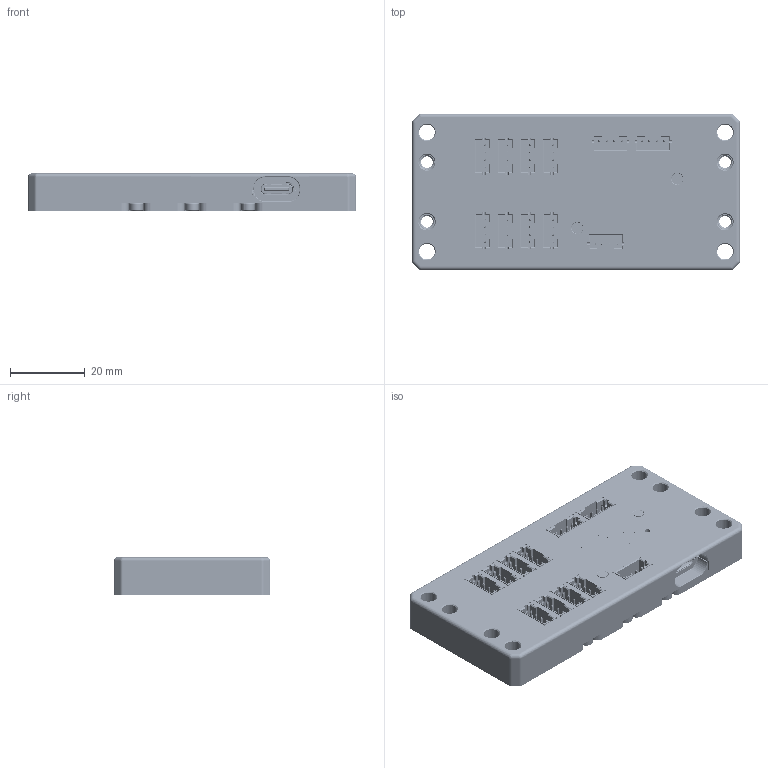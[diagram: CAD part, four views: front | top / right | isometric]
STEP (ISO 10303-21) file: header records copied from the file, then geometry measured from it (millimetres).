
FILE_DESCRIPTION(/* description */ (''),/* implementation_level */ '2;1');
FILE_NAME(/* name */ 'BBR Digital Expander.step',/* time_stamp */ '2026-09-20T21:13:06+10:00',/* author */ (''),/* organization */ (''),/* preprocessor_version */ 'ST-DEVELOPER v20.2',/* originating_system */ 'Autodesk Translation Framework v15.15.0.0',/* authorisation */ '');
FILE_SCHEMA (('AUTOMOTIVE_DESIGN { 1 0 10303 214 3 1 1 }'));
Products named in the file (59): 2026-08-18-09-23-55-729; 2026-08-03-13-27-02-549; 2026-08-03-13-27-07-307; 2026-08-03-13-27-07-652; 2026-08-03-13-27-07-706; 2026-08-03-13-27-07-766; 2026-08-03-13-27-07-828; 2026-08-03-13-27-07-913; 2026-08-03-13-27-10-147; 2026-08-03-13-27-10-166; 2026-08-03-13-27-10-175; 2026-08-03-13-27-10-179; 2026-08-03-13-27-10-181; 2026-08-03-13-27-10-185; 2026-08-03-13-27-10-279; 2026-08-03-13-27-10-282; 2026-08-03-13-27-10-285; 2026-08-03-13-27-10-288; 2026-08-18-08-27-42-361; 2026-08-18-08-27-42-434; 2026-08-18-08-27-42-361_1; 2026-08-18-08-27-42-434_1; 2026-08-18-08-27-42-361_2; 2026-08-18-08-27-42-434_2; 2026-08-18-08-27-42-361_3; 2026-08-18-08-27-42-434_3; 2026-08-18-08-27-42-361_4; 2026-08-18-08-27-42-434_4; 2026-08-18-08-27-42-361_5; 2026-08-18-08-27-42-434_5; 2026-08-18-08-27-42-361_6; 2026-08-18-08-27-42-434_6; 2026-08-18-08-27-42-361_7; 2026-08-18-08-27-42-434_7; 2026-08-18-08-27-42-361_8; 2026-08-18-08-27-42-434_8; 2026-08-18-08-27-42-361_9; 2026-08-18-08-27-42-434_9; 2026-08-18-08-27-42-361_10; 2026-08-18-08-27-42-434_10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
Assembly tree (159 placements, depth 6):
  2026-08-18-09-23-55-729
    2026-08-03-13-27-02-549
      2026-08-03-13-27-07-307
      2026-08-03-13-27-07-652
      2026-08-03-13-27-07-706
      2026-08-03-13-27-07-766
      2026-08-03-13-27-07-828
      2026-08-03-13-27-07-913
        2026-08-03-13-27-10-147  x2
        2026-08-03-13-27-10-166  x12
        2026-08-03-13-27-10-175  x6
        2026-08-03-13-27-10-179
        2026-08-03-13-27-10-181  x2
        2026-08-03-13-27-10-185  x2
        2026-08-03-13-27-10-279
        2026-08-03-13-27-10-282  x2
        2026-08-03-13-27-10-285
        2026-08-03-13-27-10-288
        2026-08-18-08-27-42-361
          2026-08-18-08-27-42-434
            2026-08-18-08-27-42-436
            2026-08-18-08-27-42-445  x4
        2026-08-18-08-27-42-361_1
          2026-08-18-08-27-42-434_1
            2026-08-18-08-27-42-436
            2026-08-18-08-27-42-445  x4
        2026-08-18-08-27-42-361_2
          2026-08-18-08-27-42-434_2
            2026-08-18-08-27-42-436
            2026-08-18-08-27-42-445  x4
        2026-08-18-08-27-42-361_3
          2026-08-18-08-27-42-434_3
            2026-08-18-08-27-42-436
            2026-08-18-08-27-42-445  x4
        2026-08-18-08-27-42-361_4
          2026-08-18-08-27-42-434_4
            2026-08-18-08-27-42-436
            2026-08-18-08-27-42-445  x4
        2026-08-18-08-27-42-361_5
          2026-08-18-08-27-42-434_5
            2026-08-18-08-27-42-436
            2026-08-18-08-27-42-445  x4
        2026-08-18-08-27-42-361_6
          2026-08-18-08-27-42-434_6
            2026-08-18-08-27-42-436
            2026-08-18-08-27-42-445  x4
        2026-08-18-08-27-42-361_7
          2026-08-18-08-27-42-434_7
            2026-08-18-08-27-42-436
            2026-08-18-08-27-42-445  x4
        2026-08-18-08-27-42-361_8
          2026-08-18-08-27-42-434_8
            2026-08-18-08-27-42-436
            2026-08-18-08-27-42-445  x4
        2026-08-18-08-27-42-361_9
          2026-08-18-08-27-42-434_9
            2026-08-18-08-27-42-436
            2026-08-18-08-27-42-445  x4
        2026-08-18-08-27-42-361_10
          2026-08-18-08-27-42-434_10
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Bounding box: 88 x 42 x 10.26 mm (x, y, z)
Volume: 28182 mm3; surface area: 48586.5 mm2
Topology: 886 solids, 886 shells, 25540 faces, 69027 edges, 45357 vertices
Faces by surface type: plane 20703, cylinder 4043, bspline 470, cone 294, torus 16, sphere 14
Full cylindrical faces by diameter (mm): 0.127 x1, 0.152 x8, 0.28 x279, 0.35 x372, 0.53 x20, 0.6 x4, 0.73 x220, 0.8 x176, 1 x4, 1.478 x24, 1.5 x1, 1.6 x8, 1.933 x48, 2 x8, 2.1 x8, 2.356 x20, 2.6 x4, 2.845 x2, 2.927 x28, 2.997 x12, 3.05 x2, 3.091 x8, 3.1 x4, 3.302 x2, 3.667 x8, 4 x16, 4.1 x3, 4.2 x13, 5.7 x4, 6 x4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
Entity records: 704740 total; most frequent: CARTESIAN_POINT 136405, ORIENTED_EDGE 120798, DIRECTION 109358, EDGE_CURVE 60399, LINE 52444, VECTOR 52444, VERTEX_POINT 40177, AXIS2_PLACEMENT_3D 28457
